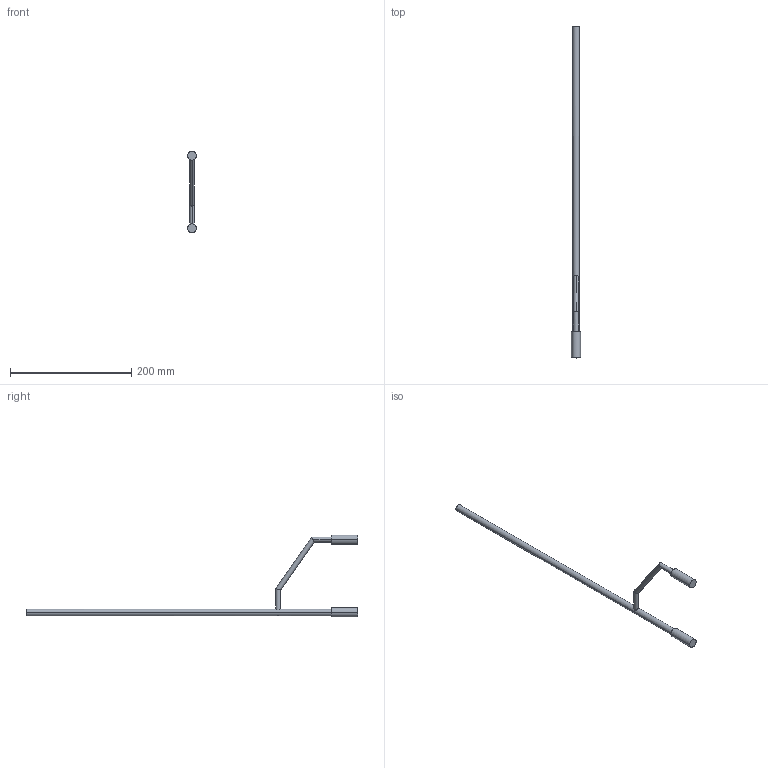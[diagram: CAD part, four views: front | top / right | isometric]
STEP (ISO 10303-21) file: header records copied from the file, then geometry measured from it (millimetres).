
FILE_DESCRIPTION (( 'STEP AP214' ), '1' );
FILE_NAME ('2S_RUL_Frontstütze_O710701300_550.step', '2010-09-07T14:19:18', ( 'grass' ), ( '' ), 'SwSTEP 2.0', 'SolidWorks 2010', '' );
FILE_SCHEMA (( 'AUTOMOTIVE_DESIGN' ));
Length unit declared in the file: millimetre
Products named in the file (1): 2S_RUL_Frontstütze_O710701300_550
Bounding box: 15 x 547.05 x 135 mm (x, y, z)
Volume: 39750.5 mm3; surface area: 40575.9 mm2
Topology: 1 solids, 1 shells, 33 faces, 74 edges, 48 vertices
Faces by surface type: cylinder 18, plane 15
Entity records: 1240 total; most frequent: CARTESIAN_POINT 454, DIRECTION 148, ORIENTED_EDGE 148, EDGE_CURVE 74, AXIS2_PLACEMENT_3D 56, VERTEX_POINT 48, EDGE_LOOP 42, VECTOR 36
